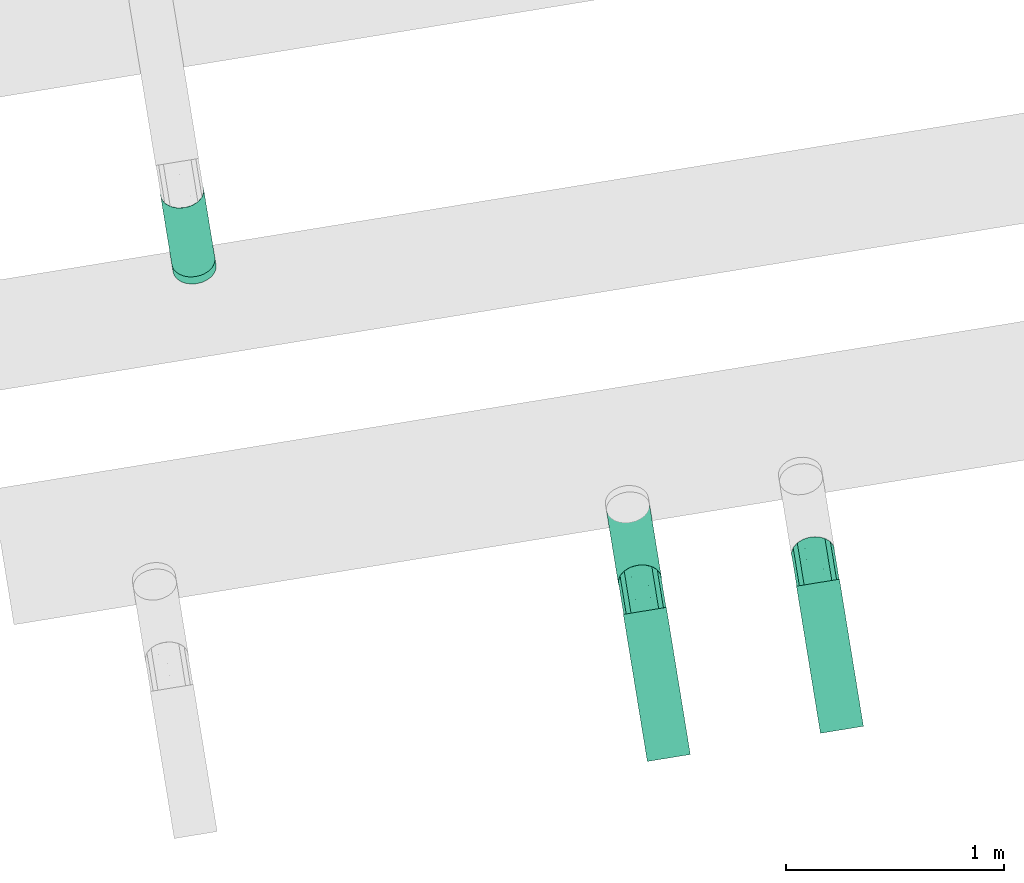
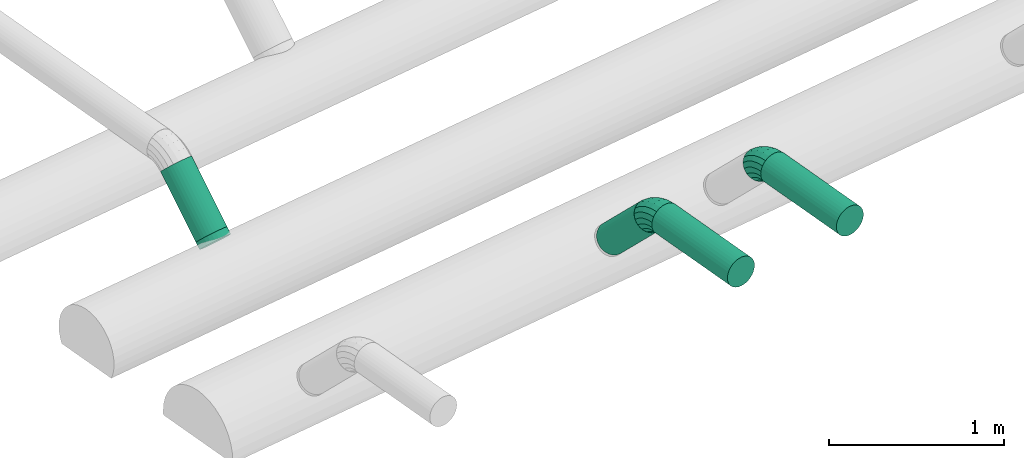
# One storey, part 2 of 19: 4 flow segments, 3 flow fittings.
"""IFC2X3 building model written with IfcOpenShell, lengths in millimetres."""

from ifc_helpers import new_model, entity, si_unit, converted_unit, derived_unit, direction, frame, frame_2d, origin, origin_with_axes, origin_2d_with_axis, place, context, subcontext, project, spatial, circle, extrude, faceted_brep, source, transform, mapped, material, type_object, element, save


model = new_model("IFC2X3")

# Units and contexts
model_context = context("Model", 3, precision=0.01, world=origin(), true_north=direction((6.12323399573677e-17, 1.0)))
plan_context = context("Plan", 3, precision=1e-05, world=origin_with_axes())
body_context = subcontext(model_context, "Body", "Model", "MODEL_VIEW")
ifc_project = project(units=[converted_unit("PLANEANGLEUNIT", "DEGREE", entity("IfcPositiveLengthMeasure", 0.0174532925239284), si_unit("PLANEANGLEUNIT", "RADIAN"), dimensions=[0, 0, 0, 0, 0, 0, 0]), si_unit("AREAUNIT", "SQUARE_METRE"), si_unit("LENGTHUNIT", "METRE", prefix="MILLI"), si_unit("MASSUNIT", "GRAM", prefix="KILO"), si_unit("POWERUNIT", "WATT"), si_unit("PRESSUREUNIT", "PASCAL", prefix="KILO"), si_unit("FORCEUNIT", "NEWTON", prefix="KILO"), si_unit("ELECTRICVOLTAGEUNIT", "VOLT"), si_unit("ELECTRICCURRENTUNIT", "AMPERE"), si_unit("THERMODYNAMICTEMPERATUREUNIT", "DEGREE_CELSIUS"), si_unit("TIMEUNIT", "SECOND"), si_unit("VOLUMEUNIT", "CUBIC_METRE"), derived_unit("LINEARVELOCITYUNIT", [(si_unit("LENGTHUNIT", "METRE"), 1), (si_unit("TIMEUNIT", "SECOND"), -1)]), derived_unit("VOLUMETRICFLOWRATEUNIT", [(si_unit("VOLUMEUNIT", "CUBIC_METRE"), 1), (si_unit("TIMEUNIT", "SECOND"), -1)]), derived_unit("THERMALTRANSMITTANCEUNIT", [(si_unit("POWERUNIT", "WATT"), 1), (si_unit("THERMODYNAMICTEMPERATUREUNIT", "KELVIN"), -1), (si_unit("AREAUNIT", "SQUARE_METRE"), -1)]), derived_unit("SOUNDPRESSUREUNIT", [(si_unit("PRESSUREUNIT", "PASCAL"), 1)])], contexts=[model_context, plan_context])

# Site, building, storey
site_placement = place(None, frame((5.09380697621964e-08, 5.80416781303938e-08, 0.0), z_axis=(0.0, 0.0, 1.0), x_axis=(-0.160806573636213, 0.986985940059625, 0.0)))
site = spatial("IfcSite", under=ifc_project, at=site_placement, Name="Default", CompositionType="ELEMENT")
building_placement = place(site_placement, frame((0.0, 0.0, 0.0), z_axis=(0.0, 0.0, 1.0), x_axis=(1.0, -2.77555756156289e-17, 0.0)))
building = spatial("IfcBuilding", under=site, at=building_placement, Name="Bygning (endres i Project Information)", CompositionType="ELEMENT")
storey_placement = place(building_placement, frame((0.0, 0.0, 51360.0000000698), z_axis=(0.0, 0.0, 1.0), x_axis=(1.0, -2.77555756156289e-17, 0.0)))
storey = spatial("IfcBuildingStorey", under=building, at=storey_placement, Name="H01-Nivå D+0,36", CompositionType="ELEMENT", Elevation=51360.0000000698)

# Flow fittings
ifc_material_1 = material(Name="3601.001 Avtrekk")
duct_fitting_type_1 = type_object("IfcDuctFittingType", Name="magicirc_elbow_full_radius_NOR:magicirc_elbow_full_radius_NOR", PredefinedType="NOTDEFINED", material=ifc_material_1)
shared_shape_1 = source(origin(), body_context, "Body", "Brep", [
    faceted_brep([(-24.3156158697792, -94.2355841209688, 0.0), (-25.4921544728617, -88.3207251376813, 34.2020143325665), (-82.8427124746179, -93.969262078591, 34.2020143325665), (-82.8427124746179, -100.0, 0.0), (-28.8798623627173, -71.2895674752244, 64.2787609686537), (-82.8427124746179, -76.604444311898, 64.2787609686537), (-34.0701319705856, -45.1963201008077, 86.6025403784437), (-82.8427124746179, -50.0, 86.6025403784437), (-40.4369401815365, -13.1882137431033, 98.4807753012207), (-82.842712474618, -17.3648177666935, 98.4807753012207), (-47.2123559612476, 20.8741015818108, 98.4807753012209), (-82.842712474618, 17.3648177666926, 98.4807753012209), (-53.5791641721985, 52.8822079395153, 86.6025403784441), (-82.8427124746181, 50.0, 86.6025403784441), (-58.7694337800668, 78.9754553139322, 64.2787609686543), (-82.8427124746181, 76.6044443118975, 64.2787609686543), (-62.1571416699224, 96.0066129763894, 34.2020143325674), (-82.8427124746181, 93.9692620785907, 34.2020143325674), (-63.3336802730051, 101.921471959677, 0.0), (-82.8427124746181, 100.0, 0.0), (-62.1571416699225, 96.0066129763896, -34.2020143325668), (-82.8427124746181, 93.9692620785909, -34.2020143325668), (-58.7694337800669, 78.9754553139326, -64.2787609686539), (-82.8427124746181, 76.6044443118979, -64.2787609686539), (-53.5791641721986, 52.8822079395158, -86.6025403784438), (-82.8427124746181, 50.0, -86.6025403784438), (-47.2123559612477, 20.8741015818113, -98.4807753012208), (-82.842712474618, 17.3648177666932, -98.4807753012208), (-40.4369401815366, -13.1882137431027, -98.4807753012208), (-82.842712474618, -17.3648177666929, -98.4807753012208), (-34.0701319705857, -45.1963201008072, -86.6025403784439), (-82.8427124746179, -50.0, -86.6025403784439), (-28.8798623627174, -71.289567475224, -64.2787609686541), (-82.8427124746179, -76.6044443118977, -64.2787609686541), (-25.4921544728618, -88.3207251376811, -34.2020143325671), (-82.8427124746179, -93.9692620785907, -34.2020143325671), (31.9623172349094, -77.1638597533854, 0.0), (29.6544537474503, -71.5921844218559, 34.2020143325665), (23.0092256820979, -55.54918470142, 64.2787609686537), (12.828145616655, -30.9698831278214, 86.6025403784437), (0.3392020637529, -0.818906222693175, 98.4807753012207), (-12.9512540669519, 31.267093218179, 98.4807753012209), (-25.440197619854, 61.4180701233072, 86.6025403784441), (-35.621277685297, 85.997371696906, 64.2787609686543), (-42.2665057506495, 102.040371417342, 34.2020143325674), (-44.5743692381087, 107.612046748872, 0.0), (-42.2665057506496, 102.040371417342, -34.2020143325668), (-35.6212776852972, 85.9973716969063, -64.2787609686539), (-25.4401976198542, 61.4180701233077, -86.6025403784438), (-12.9512540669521, 31.2670932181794, -98.4807753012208), (0.339202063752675, -0.818906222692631, -98.4807753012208), (12.8281456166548, -30.9698831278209, -86.6025403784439), (23.0092256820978, -55.5491847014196, -64.2787609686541), (29.6544537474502, -71.5921844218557, -34.2020143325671), (83.8283574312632, -49.4408836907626, 0.0), (80.4778589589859, -44.4265083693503, 34.2020143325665), (70.8304831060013, -29.9881900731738, 64.2787609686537), (56.0498457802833, -7.86740307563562, 86.6025403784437), (37.9187099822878, 19.2677592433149, 98.4807753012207), (18.6239582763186, 48.1443958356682, 98.4807753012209), (0.492822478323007, 75.2795581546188, 86.6025403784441), (-14.2878148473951, 97.4003451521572, 64.2787609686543), (-23.9351907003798, 111.838663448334, 34.2020143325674), (-27.2856891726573, 116.853038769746, 0.0), (-23.9351907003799, 111.838663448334, -34.2020143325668), (-14.2878148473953, 97.4003451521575, -64.2787609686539), (0.492822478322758, 75.2795581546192, -86.6025403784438), (18.6239582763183, 48.1443958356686, -98.4807753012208), (37.9187099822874, 19.2677592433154, -98.4807753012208), (56.049845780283, -7.86740307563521, -86.6025403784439), (70.8304831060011, -29.9881900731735, -64.2787609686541), (80.4778589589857, -44.4265083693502, -34.2020143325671), (129.289321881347, -12.1320343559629, 0.0), (125.02494620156, -7.86765867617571, 34.2020143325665), (112.746165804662, 4.41112172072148, 64.2787609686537), (93.9339828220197, 23.2233047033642, 86.6025403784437), (70.8574241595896, 46.2998633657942, 98.4807753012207), (46.299863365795, 70.8574241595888, 98.4807753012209), (23.2233047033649, 93.9339828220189, 86.6025403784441), (4.41112172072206, 112.746165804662, 64.2787609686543), (-7.86765867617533, 125.024946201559, 34.2020143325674), (-12.1320343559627, 129.289321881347, 0.0), (-7.86765867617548, 125.024946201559, -34.2020143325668), (4.41112172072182, 112.746165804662, -64.2787609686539), (23.2233047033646, 93.9339828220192, -86.6025403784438), (46.2998633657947, 70.8574241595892, -98.4807753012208), (70.8574241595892, 46.2998633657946, -98.4807753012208), (93.9339828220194, 23.2233047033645, -86.6025403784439), (112.746165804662, 4.41112172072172, -64.2787609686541), (125.02494620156, -7.86765867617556, -34.2020143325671)], [[[0, 1, 2, 3]], [[1, 4, 5, 2]], [[4, 6, 7, 5]], [[6, 8, 9, 7]], [[8, 10, 11, 9]], [[10, 12, 13, 11]], [[12, 14, 15, 13]], [[14, 16, 17, 15]], [[16, 18, 19, 17]], [[18, 20, 21, 19]], [[20, 22, 23, 21]], [[22, 24, 25, 23]], [[24, 26, 27, 25]], [[26, 28, 29, 27]], [[28, 30, 31, 29]], [[30, 32, 33, 31]], [[32, 34, 35, 33]], [[34, 0, 3, 35]], [[36, 37, 1, 0]], [[37, 38, 4, 1]], [[38, 39, 6, 4]], [[39, 40, 8, 6]], [[40, 41, 10, 8]], [[41, 42, 12, 10]], [[42, 43, 14, 12]], [[43, 44, 16, 14]], [[44, 45, 18, 16]], [[45, 46, 20, 18]], [[46, 47, 22, 20]], [[47, 48, 24, 22]], [[48, 49, 26, 24]], [[49, 50, 28, 26]], [[50, 51, 30, 28]], [[51, 52, 32, 30]], [[52, 53, 34, 32]], [[53, 36, 0, 34]], [[54, 55, 37, 36]], [[55, 56, 38, 37]], [[56, 57, 39, 38]], [[57, 58, 40, 39]], [[58, 59, 41, 40]], [[59, 60, 42, 41]], [[60, 61, 43, 42]], [[61, 62, 44, 43]], [[62, 63, 45, 44]], [[63, 64, 46, 45]], [[64, 65, 47, 46]], [[65, 66, 48, 47]], [[66, 67, 49, 48]], [[67, 68, 50, 49]], [[68, 69, 51, 50]], [[69, 70, 52, 51]], [[70, 71, 53, 52]], [[71, 54, 36, 53]], [[72, 73, 55, 54]], [[73, 74, 56, 55]], [[74, 75, 57, 56]], [[75, 76, 58, 57]], [[76, 77, 59, 58]], [[77, 78, 60, 59]], [[78, 79, 61, 60]], [[79, 80, 62, 61]], [[80, 81, 63, 62]], [[81, 82, 64, 63]], [[82, 83, 65, 64]], [[83, 84, 66, 65]], [[84, 85, 67, 66]], [[85, 86, 68, 67]], [[86, 87, 69, 68]], [[87, 88, 70, 69]], [[88, 89, 71, 70]], [[89, 72, 54, 71]], [[3, 2, 5, 7, 9, 11, 13, 15, 17, 19, 21, 23, 25, 27, 29, 31, 33, 35]], [[89, 88, 87, 86, 85, 84, 83, 82, 81, 80, 79, 78, 77, 76, 75, 74, 73, 72]]]),
])
for number, where, z_axis, x_axis, name in (
    (1, (992862.921338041, -386919.987431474, 3800.0), (2.77555756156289e-17, 1.0, 0.0), (1.0, -2.77555756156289e-17, 0.0), "magicirc_elbow_full_radius_NOR:magicirc_elbow_full_radius_NOR"),
    (2, (992862.921338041, -387724.987431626, 3800.0), (2.77555756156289e-17, 1.0, 0.0), (1.0, -2.77555756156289e-17, 0.0), "magicirc_elbow_full_radius_NOR:magicirc_elbow_full_radius_NOR"),
):
    element("IfcFlowFitting", number, at=place(storey_placement, frame(where, z_axis=z_axis, x_axis=x_axis)), inside=storey, type_object=duct_fitting_type_1, material=ifc_material_1, Name=name, ObjectType="magicirc_elbow_full_radius_NOR:magicirc_elbow_full_radius_NOR", context=body_context, shape_type="MappedRepresentation", body=[
        mapped(shared_shape_1, transform((0.0, 0.0, 0.0), scale=1.0)),
    ])
duct_fitting_type_2 = type_object("IfcDuctFittingType", Name="magicirc_tapoutlet_001:magicirc_tapoutlet_001", PredefinedType="NOTDEFINED", material=ifc_material_1)
shared_shape_2 = source(origin(), body_context, "Body", "Brep", [
    faceted_brep([(-26.9672152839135, 0.0, -100.000000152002), (-26.9672152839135, -25.8819045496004, -96.5925827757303), (-26.9672152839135, -50.0000000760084, -86.6025405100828), (-26.9672152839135, -70.7106782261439, -70.7106782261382), (-26.9672152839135, -86.6025405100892, -50.0000000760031), (-26.9672152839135, -96.5925827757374, -25.8819045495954), (-26.9672152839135, -100.000000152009, 0.0), (-26.9672152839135, -96.5925827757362, 25.8819045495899), (-26.9672152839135, -86.6025405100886, 50.0000000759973), (-26.9672152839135, -70.710678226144, 70.7106782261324), (-26.9672152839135, -50.0000000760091, 86.6025405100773), (-26.9672152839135, -25.8819045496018, 96.5925827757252), (-26.9672152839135, 0.0, 100.000000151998), (-26.9672152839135, 25.8819045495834, 96.5925827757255), (-26.9672152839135, 50.0000000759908, 86.6025405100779), (-26.9672152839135, 70.7106782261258, 70.7106782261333), (-26.9672152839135, 86.6025405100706, 50.0000000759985), (-26.9672152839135, 96.5925827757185, 25.8819045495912), (-26.9672152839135, 100.000000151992, 0.0), (-26.9672152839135, 96.5925827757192, -25.8819045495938), (-26.9672152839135, 86.6025405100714, -50.0000000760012), (-26.9672152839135, 70.7106782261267, -70.7106782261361), (-26.9672152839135, 50.0000000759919, -86.6025405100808), (-26.9672152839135, 25.8819045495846, -96.5925827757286), (0.0, 0.0, 100.000000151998), (20.0, 0.0, 100.000000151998), (20.0, 25.8819045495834, 96.5925827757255), (0.0, 25.8819045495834, 96.5925827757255), (20.0, 50.0000000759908, 86.6025405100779), (0.0, 50.0000000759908, 86.6025405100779), (20.0, 70.7106782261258, 70.7106782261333), (0.0, 70.7106782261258, 70.7106782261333), (0.0, 86.6025405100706, 50.0000000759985), (20.0, 86.6025405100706, 50.0000000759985), (20.0, 96.5925827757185, 25.8819045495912), (0.0, 96.5925827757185, 25.8819045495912), (20.0, 100.000000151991, 0.0), (0.0, 100.000000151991, 0.0), (20.0, 96.5925827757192, -25.8819045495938), (0.0, 96.5925827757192, -25.8819045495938), (20.0, 86.6025405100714, -50.0000000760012), (0.0, 86.6025405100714, -50.0000000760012), (20.0, 70.7106782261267, -70.7106782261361), (0.0, 70.7106782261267, -70.7106782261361), (0.0, 25.8819045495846, -96.5925827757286), (20.0, 25.8819045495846, -96.5925827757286), (20.0, 0.0, -100.000000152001), (0.0, 0.0, -100.000000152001), (0.0, 50.0000000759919, -86.6025405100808), (20.0, 50.0000000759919, -86.6025405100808), (20.0, -25.8819045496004, -96.5925827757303), (0.0, -25.8819045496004, -96.5925827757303), (20.0, -50.0000000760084, -86.6025405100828), (0.0, -50.0000000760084, -86.6025405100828), (20.0, -70.7106782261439, -70.7106782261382), (0.0, -70.7106782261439, -70.7106782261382), (0.0, -86.6025405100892, -50.0000000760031), (20.0, -86.6025405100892, -50.0000000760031), (20.0, -96.5925827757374, -25.8819045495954), (0.0, -96.5925827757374, -25.8819045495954), (20.0, -100.00000015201, 0.0), (0.0, -100.00000015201, 0.0), (20.0, -96.5925827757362, 25.8819045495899), (0.0, -96.5925827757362, 25.8819045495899), (20.0, -86.6025405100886, 50.0000000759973), (0.0, -86.6025405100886, 50.0000000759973), (20.0, -70.710678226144, 70.7106782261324), (0.0, -70.710678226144, 70.7106782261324), (0.0, -50.0000000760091, 86.6025405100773), (20.0, -50.0000000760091, 86.6025405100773), (20.0, -25.8819045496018, 96.5925827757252), (0.0, -25.8819045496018, 96.5925827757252)], [[[0, 1, 2, 3, 4, 5, 6, 7, 8, 9, 10, 11, 12, 13, 14, 15, 16, 17, 18, 19, 20, 21, 22, 23]], [[12, 24, 25, 26, 27, 13]], [[13, 27, 26, 28, 29, 14]], [[14, 29, 28, 30, 31, 15]], [[16, 32, 33, 34, 35, 17]], [[17, 35, 34, 36, 37, 18]], [[15, 31, 30, 33, 32, 16]], [[18, 37, 36, 38, 39, 19]], [[19, 39, 38, 40, 41, 20]], [[20, 41, 40, 42, 43, 21]], [[44, 45, 46, 47, 0, 23]], [[48, 49, 45, 44, 23, 22]], [[21, 43, 42, 49, 48, 22]], [[0, 47, 46, 50, 51, 1]], [[1, 51, 50, 52, 53, 2]], [[2, 53, 52, 54, 55, 3]], [[4, 56, 57, 58, 59, 5]], [[5, 59, 58, 60, 61, 6]], [[3, 55, 54, 57, 56, 4]], [[6, 61, 60, 62, 63, 7]], [[7, 63, 62, 64, 65, 8]], [[8, 65, 64, 66, 67, 9]], [[10, 68, 69, 70, 71, 11]], [[11, 71, 70, 25, 24, 12]], [[9, 67, 66, 69, 68, 10]], [[45, 49, 42, 40, 38, 36, 34, 33, 30, 28, 26, 25, 70, 69, 66, 64, 62, 60, 58, 57, 54, 52, 50, 46]]]),
    faceted_brep([(20.0, 25.8819045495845, -96.5925827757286), (20.0, 50.0000000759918, -86.6025405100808), (20.0, 70.7106782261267, -70.7106782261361), (20.0, 86.6025405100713, -50.0000000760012), (20.0, 96.5925827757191, -25.8819045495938), (20.0, 100.000000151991, 0.0), (20.0, 96.5925827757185, 25.8819045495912), (20.0, 86.6025405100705, 50.0000000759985), (20.0, 70.7106782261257, 70.7106782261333), (20.0, 50.0000000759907, 86.6025405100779), (20.0, 25.8819045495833, 96.5925827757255), (20.0, 0.0, 100.000000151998), (20.0, -25.8819045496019, 96.5925827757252), (20.0, -50.0000000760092, 86.6025405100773), (20.0, -70.710678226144, 70.7106782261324), (20.0, -86.6025405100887, 50.0000000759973), (20.0, -96.5925827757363, 25.8819045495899), (20.0, -100.00000015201, 0.0), (20.0, -96.5925827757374, -25.8819045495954), (20.0, -86.6025405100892, -50.0000000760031), (20.0, -70.710678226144, -70.7106782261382), (20.0, -50.0000000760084, -86.6025405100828), (20.0, -25.8819045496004, -96.5925827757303), (20.0, 0.0, -100.000000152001), (0.0, 0.0, 100.000000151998), (0.0, 25.8819045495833, 96.5925827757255), (-26.9672152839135, 25.8819045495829, 96.5925827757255), (-26.9672152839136, 0.0, 100.000000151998), (0.0, 50.0000000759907, 86.6025405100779), (-26.9672152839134, 50.0000000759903, 86.6025405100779), (0.0, 70.7106782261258, 70.7106782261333), (-26.9672152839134, 70.7106782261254, 70.7106782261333), (0.0, 86.6025405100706, 50.0000000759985), (0.0, 96.5925827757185, 25.8819045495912), (-26.9672152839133, 96.5925827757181, 25.8819045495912), (-26.9672152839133, 86.6025405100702, 50.0000000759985), (0.0, 100.000000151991, 0.0), (-26.9672152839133, 100.000000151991, 0.0), (0.0, 96.5925827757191, -25.8819045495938), (-26.9672152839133, 96.5925827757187, -25.8819045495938), (0.0, 86.6025405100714, -50.0000000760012), (-26.9672152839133, 86.602540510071, -50.0000000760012), (0.0, 70.7106782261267, -70.7106782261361), (-26.9672152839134, 70.7106782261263, -70.7106782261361), (0.0, 0.0, -100.000000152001), (-26.9672152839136, 0.0, -100.000000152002), (-26.9672152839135, 25.8819045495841, -96.5925827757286), (0.0, 25.8819045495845, -96.5925827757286), (-26.9672152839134, 50.0000000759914, -86.6025405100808), (0.0, 50.0000000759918, -86.6025405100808), (0.0, -25.8819045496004, -96.5925827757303), (-26.9672152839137, -25.8819045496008, -96.5925827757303), (0.0, -50.0000000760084, -86.6025405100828), (-26.9672152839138, -50.0000000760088, -86.6025405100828), (0.0, -70.7106782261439, -70.7106782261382), (-26.9672152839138, -70.7106782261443, -70.7106782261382), (0.0, -86.6025405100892, -50.0000000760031), (0.0, -96.5925827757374, -25.8819045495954), (-26.9672152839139, -96.5925827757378, -25.8819045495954), (-26.9672152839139, -86.6025405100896, -50.0000000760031), (0.0, -100.00000015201, 0.0), (-26.9672152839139, -100.000000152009, 0.0), (0.0, -96.5925827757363, 25.8819045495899), (-26.9672152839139, -96.5925827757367, 25.8819045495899), (0.0, -86.6025405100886, 50.0000000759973), (-26.9672152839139, -86.602540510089, 50.0000000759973), (0.0, -70.710678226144, 70.7106782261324), (-26.9672152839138, -70.7106782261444, 70.7106782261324), (0.0, -50.0000000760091, 86.6025405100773), (0.0, -25.8819045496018, 96.5925827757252), (-26.9672152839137, -25.8819045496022, 96.5925827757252), (-26.9672152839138, -50.0000000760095, 86.6025405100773)], [[[0, 1, 2, 3, 4, 5, 6, 7, 8, 9, 10, 11, 12, 13, 14, 15, 16, 17, 18, 19, 20, 21, 22, 23]], [[24, 11, 10, 25, 26, 27]], [[25, 10, 9, 28, 29, 26]], [[28, 9, 8, 30, 31, 29]], [[32, 7, 6, 33, 34, 35]], [[33, 6, 5, 36, 37, 34]], [[30, 8, 7, 32, 35, 31]], [[36, 5, 4, 38, 39, 37]], [[38, 4, 3, 40, 41, 39]], [[40, 3, 2, 42, 43, 41]], [[0, 23, 44, 45, 46, 47]], [[1, 0, 47, 46, 48, 49]], [[42, 2, 1, 49, 48, 43]], [[44, 23, 22, 50, 51, 45]], [[50, 22, 21, 52, 53, 51]], [[52, 21, 20, 54, 55, 53]], [[56, 19, 18, 57, 58, 59]], [[57, 18, 17, 60, 61, 58]], [[54, 20, 19, 56, 59, 55]], [[60, 17, 16, 62, 63, 61]], [[62, 16, 15, 64, 65, 63]], [[64, 15, 14, 66, 67, 65]], [[68, 13, 12, 69, 70, 71]], [[69, 12, 11, 24, 27, 70]], [[66, 14, 13, 68, 71, 67]], [[45, 51, 53, 55, 59, 58, 61, 63, 65, 67, 71, 70, 27, 26, 29, 31, 35, 34, 37, 39, 41, 43, 48, 46]]]),
    faceted_brep([(-26.9672152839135, 0.0, -100.000000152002), (-26.9672152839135, -25.8819045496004, -96.5925827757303), (-26.9672152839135, -50.0000000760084, -86.6025405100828), (-26.9672152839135, -70.7106782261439, -70.7106782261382), (-26.9672152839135, -86.6025405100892, -50.0000000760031), (-26.9672152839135, -96.5925827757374, -25.8819045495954), (-26.9672152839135, -100.000000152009, 0.0), (-26.9672152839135, -96.5925827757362, 25.8819045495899), (-26.9672152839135, -86.6025405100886, 50.0000000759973), (-26.9672152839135, -70.710678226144, 70.7106782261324), (-26.9672152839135, -50.0000000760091, 86.6025405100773), (-26.9672152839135, -25.8819045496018, 96.5925827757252), (-26.9672152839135, 0.0, 100.000000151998), (-26.9672152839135, 25.8819045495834, 96.5925827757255), (-26.9672152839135, 50.0000000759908, 86.6025405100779), (-26.9672152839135, 70.7106782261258, 70.7106782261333), (-26.9672152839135, 86.6025405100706, 50.0000000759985), (-26.9672152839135, 96.5925827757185, 25.8819045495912), (-26.9672152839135, 100.000000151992, 0.0), (-26.9672152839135, 96.5925827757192, -25.8819045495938), (-26.9672152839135, 86.6025405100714, -50.0000000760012), (-26.9672152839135, 70.7106782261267, -70.7106782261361), (-26.9672152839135, 50.0000000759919, -86.6025405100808), (-26.9672152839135, 25.8819045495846, -96.5925827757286), (0.0, 0.0, 100.000000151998), (20.0, 0.0, 100.000000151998), (20.0, 25.8819045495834, 96.5925827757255), (0.0, 25.8819045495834, 96.5925827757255), (20.0, 50.0000000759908, 86.6025405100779), (0.0, 50.0000000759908, 86.6025405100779), (20.0, 70.7106782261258, 70.7106782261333), (0.0, 70.7106782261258, 70.7106782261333), (0.0, 86.6025405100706, 50.0000000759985), (20.0, 86.6025405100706, 50.0000000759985), (20.0, 96.5925827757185, 25.8819045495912), (0.0, 96.5925827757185, 25.8819045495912), (20.0, 100.000000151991, 0.0), (0.0, 100.000000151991, 0.0), (20.0, 96.5925827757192, -25.8819045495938), (0.0, 96.5925827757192, -25.8819045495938), (20.0, 86.6025405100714, -50.0000000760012), (0.0, 86.6025405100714, -50.0000000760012), (20.0, 70.7106782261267, -70.7106782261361), (0.0, 70.7106782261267, -70.7106782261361), (0.0, 25.8819045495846, -96.5925827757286), (20.0, 25.8819045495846, -96.5925827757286), (20.0, 0.0, -100.000000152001), (0.0, 0.0, -100.000000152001), (0.0, 50.0000000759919, -86.6025405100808), (20.0, 50.0000000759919, -86.6025405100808), (20.0, -25.8819045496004, -96.5925827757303), (0.0, -25.8819045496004, -96.5925827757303), (20.0, -50.0000000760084, -86.6025405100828), (0.0, -50.0000000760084, -86.6025405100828), (20.0, -70.7106782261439, -70.7106782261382), (0.0, -70.7106782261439, -70.7106782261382), (0.0, -86.6025405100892, -50.0000000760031), (20.0, -86.6025405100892, -50.0000000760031), (20.0, -96.5925827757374, -25.8819045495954), (0.0, -96.5925827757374, -25.8819045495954), (20.0, -100.00000015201, 0.0), (0.0, -100.00000015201, 0.0), (20.0, -96.5925827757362, 25.8819045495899), (0.0, -96.5925827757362, 25.8819045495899), (20.0, -86.6025405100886, 50.0000000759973), (0.0, -86.6025405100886, 50.0000000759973), (20.0, -70.710678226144, 70.7106782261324), (0.0, -70.710678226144, 70.7106782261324), (0.0, -50.0000000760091, 86.6025405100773), (20.0, -50.0000000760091, 86.6025405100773), (20.0, -25.8819045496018, 96.5925827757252), (0.0, -25.8819045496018, 96.5925827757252)], [[[0, 1, 2, 3, 4, 5, 6, 7, 8, 9, 10, 11, 12, 13, 14, 15, 16, 17, 18, 19, 20, 21, 22, 23]], [[12, 24, 25, 26, 27, 13]], [[13, 27, 26, 28, 29, 14]], [[14, 29, 28, 30, 31, 15]], [[16, 32, 33, 34, 35, 17]], [[17, 35, 34, 36, 37, 18]], [[15, 31, 30, 33, 32, 16]], [[18, 37, 36, 38, 39, 19]], [[19, 39, 38, 40, 41, 20]], [[20, 41, 40, 42, 43, 21]], [[44, 45, 46, 47, 0, 23]], [[48, 49, 45, 44, 23, 22]], [[21, 43, 42, 49, 48, 22]], [[0, 47, 46, 50, 51, 1]], [[1, 51, 50, 52, 53, 2]], [[2, 53, 52, 54, 55, 3]], [[4, 56, 57, 58, 59, 5]], [[5, 59, 58, 60, 61, 6]], [[3, 55, 54, 57, 56, 4]], [[6, 61, 60, 62, 63, 7]], [[7, 63, 62, 64, 65, 8]], [[8, 65, 64, 66, 67, 9]], [[10, 68, 69, 70, 71, 11]], [[11, 71, 70, 25, 24, 12]], [[9, 67, 66, 69, 68, 10]], [[45, 49, 42, 40, 38, 36, 34, 33, 30, 28, 26, 25, 70, 69, 66, 64, 62, 60, 58, 57, 54, 52, 50, 46]]]),
])
flow_fitting_placement = place(storey_placement, frame((994682.798156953, -385132.73177938, 3426.77669594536), z_axis=(-0.707106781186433, 9.81307786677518e-18, 0.707106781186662), x_axis=(0.707106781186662, 1.38777878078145e-17, 0.707106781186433)))
element("IfcFlowFitting", 3, at=flow_fitting_placement, inside=storey, type_object=duct_fitting_type_2, material=ifc_material_1, Name="magicirc_tapoutlet_001:magicirc_tapoutlet_001", ObjectType="magicirc_tapoutlet_001:magicirc_tapoutlet_001", context=body_context, shape_type="MappedRepresentation", body=[
    mapped(shared_shape_2, transform((0.0, 0.0, 0.0), scale=1.0)),
])

# Flow segments
ifc_material_2 = material(Name="3601.001 Tilluft")
duct_segment_type = type_object("IfcDuctSegmentType", Name="Round Duct:Sirkulær kanal", PredefinedType="NOTDEFINED", material=ifc_material_2)
flow_segment_1_placement = place(storey_placement, frame((0.0, 0.0, 0.0), z_axis=(0.0, 0.0, 1.0), x_axis=(1.0, -2.77555756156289e-17, 0.0)))
element("IfcFlowSegment", 4, at=flow_segment_1_placement, inside=storey, type_object=duct_segment_type, Name="Round Duct:Sirkulær kanal", ObjectType="Round Duct:Sirkulær kanal", context=body_context, shape_type="SweptSolid", body=[
    extrude(circle(Radius=100.000000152, at=frame_2d((0.0, -8.66293703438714e-12), x_axis=(1.0, 0.0))), frame((992095.9462867, -386919.987431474, 3800.0), z_axis=(1.0, 0.0, 0.0), x_axis=(0.0, 1.0, 0.0)), (0.0, 0.0, 1.0), 684.132338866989),
])
flow_segment_2_placement = place(storey_placement, frame((0.0, 0.0, 0.0), z_axis=(0.0, 0.0, 1.0), x_axis=(1.0, -2.77555756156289e-17, 0.0)))
element("IfcFlowSegment", 5, at=flow_segment_2_placement, inside=storey, type_object=duct_segment_type, Name="Round Duct:Sirkulær kanal", ObjectType="Round Duct:Sirkulær kanal", context=body_context, shape_type="SweptSolid", body=[
    extrude(circle(Radius=100.000000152, at=origin_2d_with_axis()), frame((992095.9462867, -387724.987431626, 3800.0), z_axis=(1.0, 0.0, 0.0), x_axis=(0.0, 1.0, 0.0)), (0.0, 0.0, 1.0), 684.132338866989),
])
flow_segment_3_placement = place(storey_placement, frame((0.0, 0.0, 0.0), z_axis=(0.0, 0.0, 1.0), x_axis=(1.0, -2.77555756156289e-17, 0.0)))
element("IfcFlowSegment", 6, at=flow_segment_3_placement, inside=storey, type_object=duct_segment_type, Name="Round Duct:Sirkulær kanal", ObjectType="Round Duct:Sirkulær kanal", context=body_context, shape_type="SweptSolid", body=[
    extrude(circle(Radius=100.000000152, at=frame_2d((0.0, 6.12562152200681e-12), x_axis=(1.0, 0.0))), frame((994696.940292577, -385132.73177938, 3440.91883156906), z_axis=(0.707106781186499, 0.0, 0.707106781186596), x_axis=(0.0, -1.0, 0.0)), (0.0, 0.0, 1.0), 453.259017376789),
])
flow_segment_4_placement = place(storey_placement, frame((0.0, 0.0, 0.0), z_axis=(0.0, 0.0, 1.0), x_axis=(1.0, -2.77555756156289e-17, 0.0)))
element("IfcFlowSegment", 7, at=flow_segment_4_placement, inside=storey, type_object=duct_segment_type, Name="Round Duct:Sirkulær kanal", ObjectType="Round Duct:Sirkulær kanal", context=body_context, shape_type="SweptSolid", body=[
    extrude(circle(Radius=100.000000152, at=frame_2d((-6.93034885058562e-11, 6.12570942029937e-12), x_axis=(1.0, 0.0))), frame((992921.499981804, -386919.987431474, 3741.42135623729), z_axis=(0.707106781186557, 0.0, -0.707106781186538), x_axis=(-8.96830393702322e-07, -1.0, -8.96830393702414e-07)), (0.0, 0.0, 1.0), 480.157562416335),
])

save(model, "model.ifc")
